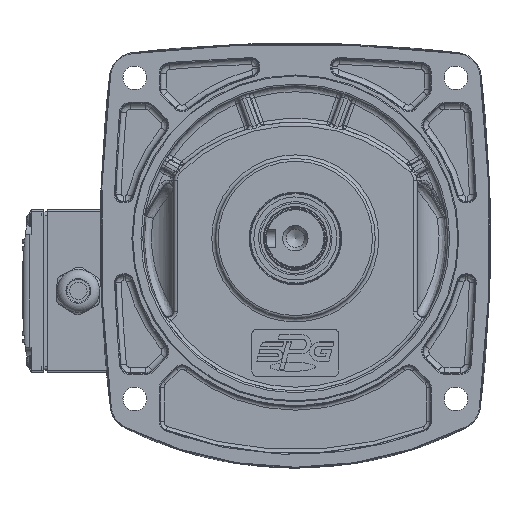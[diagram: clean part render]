
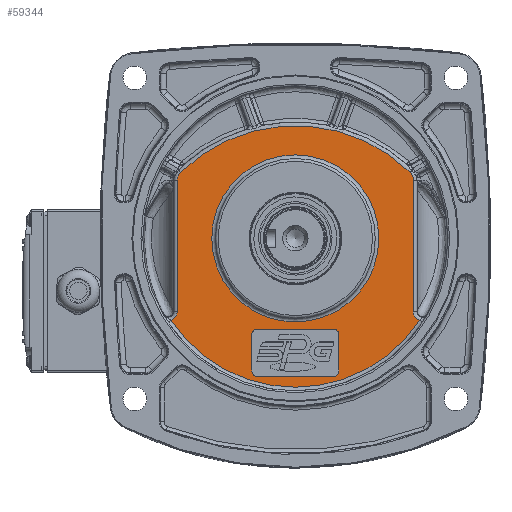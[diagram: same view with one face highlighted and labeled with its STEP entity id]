
A CAD part, top view. The second image highlights one B-rep face of the part: STEP entity #59344.
In plain terms, the highlighted planar face has unit normal (0, 0, 1).
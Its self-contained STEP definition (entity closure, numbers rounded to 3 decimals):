
#665=FACE_BOUND('',#13762,.T.);
#666=FACE_BOUND('',#13763,.T.);
#1238=PLANE('',#64218);
#3491=LINE('',#99784,#6341);
#3492=LINE('',#99849,#6342);
#3541=LINE('',#102088,#6391);
#3542=LINE('',#102092,#6392);
#3543=LINE('',#102096,#6393);
#3544=LINE('',#102100,#6394);
#6341=VECTOR('',#73876,10.);
#6342=VECTOR('',#73885,10.);
#6391=VECTOR('',#74372,10.);
#6392=VECTOR('',#74375,10.);
#6393=VECTOR('',#74378,10.);
#6394=VECTOR('',#74381,10.);
#10019=FACE_OUTER_BOUND('',#13761,.T.);
#13761=EDGE_LOOP('',(#42905,#42906,#42907,#42908,#42909,#42910,#42911,#42912));
#13762=EDGE_LOOP('',(#42913,#42914,#42915,#42916,#42917,#42918,#42919,#42920));
#13763=EDGE_LOOP('',(#42921));
#17489=CIRCLE('',#64011,46.);
#17572=CIRCLE('',#64144,90.551);
#17624=CIRCLE('',#64219,81.929);
#17625=CIRCLE('',#64220,3.);
#17626=CIRCLE('',#64221,3.);
#17627=CIRCLE('',#64222,3.);
#17628=CIRCLE('',#64223,3.);
#20290=B_SPLINE_CURVE_WITH_KNOTS('',3,(#99840,#99841,#99842,#99843,#99844,
#99845),.UNSPECIFIED.,.F.,.F.,(4,1,1,4),(0.,0.372,0.558,
0.621),.UNSPECIFIED.);
#20295=B_SPLINE_CURVE_WITH_KNOTS('',3,(#99989,#99990,#99991,#99992,#99993),
 .UNSPECIFIED.,.F.,.F.,(4,1,4),(0.,0.205,0.478),
 .UNSPECIFIED.);
#20327=B_SPLINE_CURVE_WITH_KNOTS('',3,(#100266,#100267,#100268,#100269,
#100270),.UNSPECIFIED.,.F.,.F.,(4,1,4),(0.,0.273,0.478),
 .UNSPECIFIED.);
#20396=B_SPLINE_CURVE_WITH_KNOTS('',3,(#102081,#102082,#102083,#102084,
#102085),.UNSPECIFIED.,.F.,.F.,(4,1,4),(0.682,0.93,
1.302),.UNSPECIFIED.);
#24236=VERTEX_POINT('',#99781);
#24237=VERTEX_POINT('',#99783);
#24238=VERTEX_POINT('',#99826);
#24239=VERTEX_POINT('',#99838);
#24240=VERTEX_POINT('',#99847);
#24250=VERTEX_POINT('',#99874);
#24273=VERTEX_POINT('',#99987);
#24313=VERTEX_POINT('',#100265);
#24405=VERTEX_POINT('',#102079);
#24406=VERTEX_POINT('',#102086);
#24407=VERTEX_POINT('',#102087);
#24408=VERTEX_POINT('',#102089);
#24409=VERTEX_POINT('',#102091);
#24410=VERTEX_POINT('',#102093);
#24411=VERTEX_POINT('',#102095);
#24412=VERTEX_POINT('',#102097);
#24413=VERTEX_POINT('',#102099);
#30706=EDGE_CURVE('',#24236,#24237,#3491,.T.);
#30710=EDGE_CURVE('',#24239,#24238,#20290,.T.);
#30712=EDGE_CURVE('',#24240,#24239,#3492,.T.);
#30725=EDGE_CURVE('',#24250,#24250,#17489,.T.);
#30760=EDGE_CURVE('',#24273,#24240,#20295,.T.);
#30807=EDGE_CURVE('',#24237,#24313,#20327,.T.);
#30923=EDGE_CURVE('',#24313,#24273,#17572,.T.);
#31007=EDGE_CURVE('',#24238,#24405,#17624,.T.);
#31008=EDGE_CURVE('',#24405,#24236,#20396,.T.);
#31009=EDGE_CURVE('',#24406,#24407,#3541,.T.);
#31010=EDGE_CURVE('',#24408,#24407,#17625,.T.);
#31011=EDGE_CURVE('',#24408,#24409,#3542,.T.);
#31012=EDGE_CURVE('',#24410,#24409,#17626,.T.);
#31013=EDGE_CURVE('',#24410,#24411,#3543,.T.);
#31014=EDGE_CURVE('',#24412,#24411,#17627,.T.);
#31015=EDGE_CURVE('',#24412,#24413,#3544,.T.);
#31016=EDGE_CURVE('',#24406,#24413,#17628,.T.);
#42905=ORIENTED_EDGE('',*,*,#31007,.F.);
#42906=ORIENTED_EDGE('',*,*,#30710,.F.);
#42907=ORIENTED_EDGE('',*,*,#30712,.F.);
#42908=ORIENTED_EDGE('',*,*,#30760,.F.);
#42909=ORIENTED_EDGE('',*,*,#30923,.F.);
#42910=ORIENTED_EDGE('',*,*,#30807,.F.);
#42911=ORIENTED_EDGE('',*,*,#30706,.F.);
#42912=ORIENTED_EDGE('',*,*,#31008,.F.);
#42913=ORIENTED_EDGE('',*,*,#31009,.T.);
#42914=ORIENTED_EDGE('',*,*,#31010,.F.);
#42915=ORIENTED_EDGE('',*,*,#31011,.T.);
#42916=ORIENTED_EDGE('',*,*,#31012,.F.);
#42917=ORIENTED_EDGE('',*,*,#31013,.T.);
#42918=ORIENTED_EDGE('',*,*,#31014,.F.);
#42919=ORIENTED_EDGE('',*,*,#31015,.T.);
#42920=ORIENTED_EDGE('',*,*,#31016,.F.);
#42921=ORIENTED_EDGE('',*,*,#30725,.F.);
#59344=ADVANCED_FACE('',(#10019,#665,#666),#1238,.F.);
#64011=AXIS2_PLACEMENT_3D('',#99876,#73912,#73913);
#64144=AXIS2_PLACEMENT_3D('',#101234,#74213,#74214);
#64218=AXIS2_PLACEMENT_3D('',#102078,#74368,#74369);
#64219=AXIS2_PLACEMENT_3D('',#102080,#74370,#74371);
#64220=AXIS2_PLACEMENT_3D('',#102090,#74373,#74374);
#64221=AXIS2_PLACEMENT_3D('',#102094,#74376,#74377);
#64222=AXIS2_PLACEMENT_3D('',#102098,#74379,#74380);
#64223=AXIS2_PLACEMENT_3D('',#102101,#74382,#74383);
#73876=DIRECTION('',(0.,1.,0.));
#73885=DIRECTION('',(0.,-1.,0.));
#73912=DIRECTION('center_axis',(0.,0.,1.));
#73913=DIRECTION('ref_axis',(-1.,0.,0.));
#74213=DIRECTION('center_axis',(0.,0.,-1.));
#74214=DIRECTION('ref_axis',(0.,1.,0.));
#74368=DIRECTION('center_axis',(0.,0.,-1.));
#74369=DIRECTION('ref_axis',(-1.,0.,0.));
#74370=DIRECTION('center_axis',(0.,0.,-1.));
#74371=DIRECTION('ref_axis',(0.,-1.,0.));
#74372=DIRECTION('',(0.,1.,0.));
#74373=DIRECTION('center_axis',(0.,0.,1.));
#74374=DIRECTION('ref_axis',(-0.707,0.707,0.));
#74375=DIRECTION('',(1.,0.,0.));
#74376=DIRECTION('center_axis',(0.,0.,1.));
#74377=DIRECTION('ref_axis',(0.707,0.707,0.));
#74378=DIRECTION('',(0.,-1.,0.));
#74379=DIRECTION('center_axis',(0.,0.,1.));
#74380=DIRECTION('ref_axis',(0.707,-0.707,0.));
#74381=DIRECTION('',(-1.,0.,0.));
#74382=DIRECTION('center_axis',(0.,0.,1.));
#74383=DIRECTION('ref_axis',(-0.707,-0.707,0.));
#99781=CARTESIAN_POINT('',(-62.109,-11.751,67.));
#99783=CARTESIAN_POINT('',(-62.109,60.641,67.));
#99784=CARTESIAN_POINT('',(-62.109,-41.67,67.));
#99826=CARTESIAN_POINT('',(71.3,-16.503,67.));
#99838=CARTESIAN_POINT('',(67.891,-11.751,67.));
#99840=CARTESIAN_POINT('Ctrl Pts',(67.891,-11.751,67.));
#99841=CARTESIAN_POINT('Ctrl Pts',(67.891,-12.992,67.));
#99842=CARTESIAN_POINT('Ctrl Pts',(68.62,-14.854,67.));
#99843=CARTESIAN_POINT('Ctrl Pts',(70.33,-16.116,67.));
#99844=CARTESIAN_POINT('Ctrl Pts',(71.103,-16.432,67.));
#99845=CARTESIAN_POINT('Ctrl Pts',(71.301,-16.498,67.));
#99847=CARTESIAN_POINT('',(67.891,60.641,67.));
#99849=CARTESIAN_POINT('',(67.891,-41.67,67.));
#99874=CARTESIAN_POINT('',(48.891,28.58,67.));
#99876=CARTESIAN_POINT('Origin',(2.891,28.58,67.));
#99987=CARTESIAN_POINT('',(66.076,64.943,67.));
#99989=CARTESIAN_POINT('Ctrl Pts',(66.076,64.943,67.));
#99990=CARTESIAN_POINT('Ctrl Pts',(66.565,64.467,67.));
#99991=CARTESIAN_POINT('Ctrl Pts',(67.525,63.141,67.));
#99992=CARTESIAN_POINT('Ctrl Pts',(67.891,61.551,67.));
#99993=CARTESIAN_POINT('Ctrl Pts',(67.891,60.641,67.));
#100265=CARTESIAN_POINT('',(-60.295,64.943,67.));
#100266=CARTESIAN_POINT('Ctrl Pts',(-62.109,60.641,67.));
#100267=CARTESIAN_POINT('Ctrl Pts',(-62.109,61.551,67.));
#100268=CARTESIAN_POINT('Ctrl Pts',(-61.743,63.141,67.));
#100269=CARTESIAN_POINT('Ctrl Pts',(-60.783,64.467,
67.));
#100270=CARTESIAN_POINT('Ctrl Pts',(-60.295,64.943,
67.));
#101234=CARTESIAN_POINT('Origin',(2.891,0.08,67.));
#102078=CARTESIAN_POINT('Origin',(2.891,0.08,67.));
#102079=CARTESIAN_POINT('',(-65.518,-16.503,67.));
#102080=CARTESIAN_POINT('Origin',(2.891,28.58,67.));
#102081=CARTESIAN_POINT('Ctrl Pts',(-65.52,-16.499,
67.));
#102082=CARTESIAN_POINT('Ctrl Pts',(-64.731,-16.23,
67.));
#102083=CARTESIAN_POINT('Ctrl Pts',(-62.92,-15.07,
67.));
#102084=CARTESIAN_POINT('Ctrl Pts',(-62.109,-12.992,
67.));
#102085=CARTESIAN_POINT('Ctrl Pts',(-62.109,-11.751,
67.));
#102086=CARTESIAN_POINT('',(-21.109,-44.42,67.));
#102087=CARTESIAN_POINT('',(-21.109,-24.42,67.));
#102088=CARTESIAN_POINT('',(-21.109,-10.67,67.));
#102089=CARTESIAN_POINT('',(-18.109,-21.42,67.));
#102090=CARTESIAN_POINT('Origin',(-18.109,-24.42,67.));
#102091=CARTESIAN_POINT('',(23.891,-21.42,67.));
#102092=CARTESIAN_POINT('',(14.891,-21.42,67.));
#102093=CARTESIAN_POINT('',(26.891,-24.42,67.));
#102094=CARTESIAN_POINT('Origin',(23.891,-24.42,67.));
#102095=CARTESIAN_POINT('',(26.891,-44.42,67.));
#102096=CARTESIAN_POINT('',(26.891,-23.67,67.));
#102097=CARTESIAN_POINT('',(23.891,-47.42,67.));
#102098=CARTESIAN_POINT('Origin',(23.891,-44.42,67.));
#102099=CARTESIAN_POINT('',(-18.109,-47.42,67.));
#102100=CARTESIAN_POINT('',(-9.109,-47.42,67.));
#102101=CARTESIAN_POINT('Origin',(-18.109,-44.42,67.));
